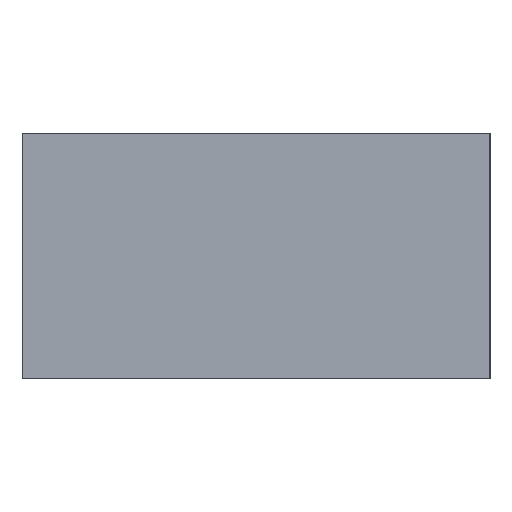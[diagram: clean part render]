
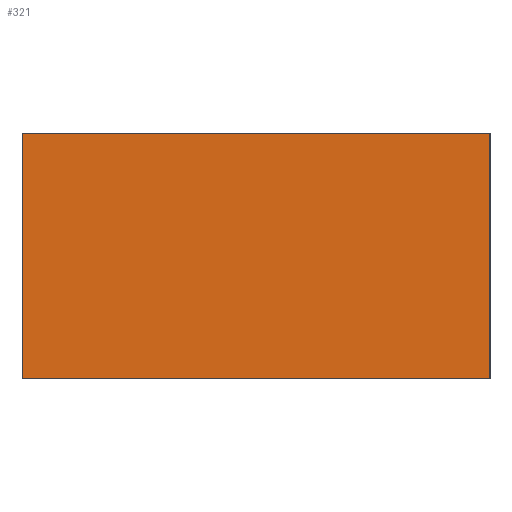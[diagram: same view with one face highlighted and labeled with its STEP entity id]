
A CAD part, front view. The second image highlights one B-rep face of the part: STEP entity #321.
In plain terms, the highlighted planar face has unit normal (0, -1, 0).
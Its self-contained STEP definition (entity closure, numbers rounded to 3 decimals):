
#4 = AXIS2_PLACEMENT_3D ( 'NONE', #441, #93, #127 ) ;
#47 = CARTESIAN_POINT ( 'NONE',  ( 19.05, 0., 10. ) ) ;
#54 = CARTESIAN_POINT ( 'NONE',  ( 0., 0., 10. ) ) ;
#58 = CARTESIAN_POINT ( 'NONE',  ( 0., 0., 0. ) ) ;
#93 = DIRECTION ( 'NONE',  ( 0., -1., 0. ) ) ;
#98 = ORIENTED_EDGE ( 'NONE', *, *, #316, .T. ) ;
#118 = VECTOR ( 'NONE', #322, 1000. ) ;
#127 = DIRECTION ( 'NONE',  ( 1., 0., 0. ) ) ;
#132 = DIRECTION ( 'NONE',  ( 0., 0., -1. ) ) ;
#169 = LINE ( 'NONE', #58, #330 ) ;
#172 = CARTESIAN_POINT ( 'NONE',  ( 0., 0., 10. ) ) ;
#174 = FACE_OUTER_BOUND ( 'NONE', #256, .T. ) ;
#237 = VECTOR ( 'NONE', #245, 1000. ) ;
#243 = PLANE ( 'NONE',  #4 ) ;
#245 = DIRECTION ( 'NONE',  ( 0., 0., -1. ) ) ;
#246 = EDGE_CURVE ( 'NONE', #444, #332, #169, .T. ) ;
#248 = CARTESIAN_POINT ( 'NONE',  ( 0., 0., 0. ) ) ;
#256 = EDGE_LOOP ( 'NONE', ( #368, #265, #98, #291 ) ) ;
#265 = ORIENTED_EDGE ( 'NONE', *, *, #280, .F. ) ;
#280 = EDGE_CURVE ( 'NONE', #286, #444, #440, .T. ) ;
#283 = LINE ( 'NONE', #172, #395 ) ;
#286 = VERTEX_POINT ( 'NONE', #47 ) ;
#291 = ORIENTED_EDGE ( 'NONE', *, *, #318, .T. ) ;
#316 = EDGE_CURVE ( 'NONE', #286, #497, #474, .T. ) ;
#317 = CARTESIAN_POINT ( 'NONE',  ( 19.05, 0., 10. ) ) ;
#318 = EDGE_CURVE ( 'NONE', #497, #332, #283, .T. ) ;
#321 = ADVANCED_FACE ( 'NONE', ( #174 ), #243, .T. ) ;
#322 = DIRECTION ( 'NONE',  ( -1., 0., 0. ) ) ;
#330 = VECTOR ( 'NONE', #476, 1000. ) ;
#332 = VERTEX_POINT ( 'NONE', #248 ) ;
#368 = ORIENTED_EDGE ( 'NONE', *, *, #246, .F. ) ;
#395 = VECTOR ( 'NONE', #132, 1000. ) ;
#424 = CARTESIAN_POINT ( 'NONE',  ( 19.05, 0., 0. ) ) ;
#440 = LINE ( 'NONE', #317, #237 ) ;
#441 = CARTESIAN_POINT ( 'NONE',  ( 0., 0., 10. ) ) ;
#444 = VERTEX_POINT ( 'NONE', #424 ) ;
#474 = LINE ( 'NONE', #54, #118 ) ;
#476 = DIRECTION ( 'NONE',  ( -1., 0., 0. ) ) ;
#488 = CARTESIAN_POINT ( 'NONE',  ( 0., 0., 10. ) ) ;
#497 = VERTEX_POINT ( 'NONE', #488 ) ;
